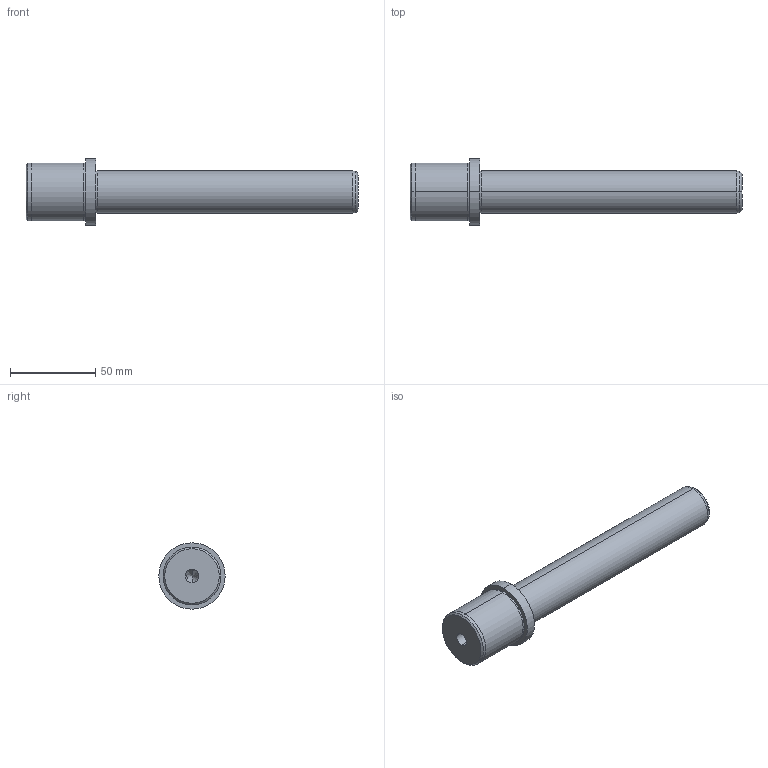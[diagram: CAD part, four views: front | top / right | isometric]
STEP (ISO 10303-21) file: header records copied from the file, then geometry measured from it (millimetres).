
FILE_DESCRIPTION( ( 'STEP AP203' ), '1' );
FILE_NAME( 'D:/Delta 3 D/D05/D05 - 25x160x35.step', '2002-12-31T22:35:57', ( ' ' ), ( ' ' ), 'XStep 1.0', ' ', ' ' );
FILE_SCHEMA( ( 'CONFIG_CONTROL_DESIGN' ) );
Length unit declared in the file: metre
Products named in the file (1): 1
Bounding box: 195 x 39 x 39 mm (x, y, z)
Volume: 113801.3 mm3; surface area: 19082.3 mm2
Topology: 1 solids, 1 shells, 29 faces, 57 edges, 35 vertices
Faces by surface type: revolution 20, bspline 9
Entity records: 855 total; most frequent: CARTESIAN_POINT 218, ORIENTED_EDGE 112, DIRECTION 110, EDGE_CURVE 56, AXIS2_PLACEMENT_3D 35, EDGE_LOOP 35, VERTEX_POINT 35, CIRCLE 34
